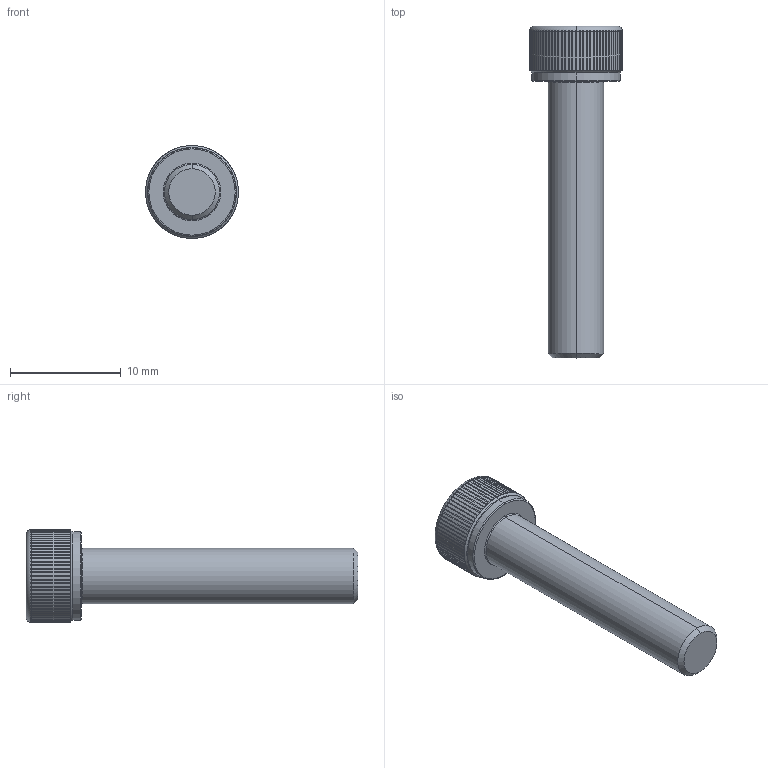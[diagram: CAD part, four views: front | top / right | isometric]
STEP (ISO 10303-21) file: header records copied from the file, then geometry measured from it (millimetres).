
FILE_DESCRIPTION (( 'STEP AP203' ), '1' );
FILE_NAME ('LGDT-304-M5x25.STEP', '2026-08-10T03:52:37', ( '' ), ( '' ), 'SwSTEP 2.0', 'SolidWorks 2020', '' );
FILE_SCHEMA (( 'CONFIG_CONTROL_DESIGN' ));
Length unit declared in the file: millimetre
Products named in the file (1): LGDT-304-M5x25
Bounding box: 8.4 x 30 x 8.4 mm (x, y, z)
Volume: 718.9 mm3; surface area: 661.4 mm2
Topology: 1 solids, 1 shells, 204 faces, 576 edges, 376 vertices
Faces by surface type: cylinder 175, cone 11, plane 10, torus 8
Entity records: 8367 total; most frequent: CARTESIAN_POINT 3208, ORIENTED_EDGE 1152, DIRECTION 988, EDGE_CURVE 576, AXIS2_PLACEMENT_3D 398, VERTEX_POINT 376, EDGE_LOOP 206, ADVANCED_FACE 204
